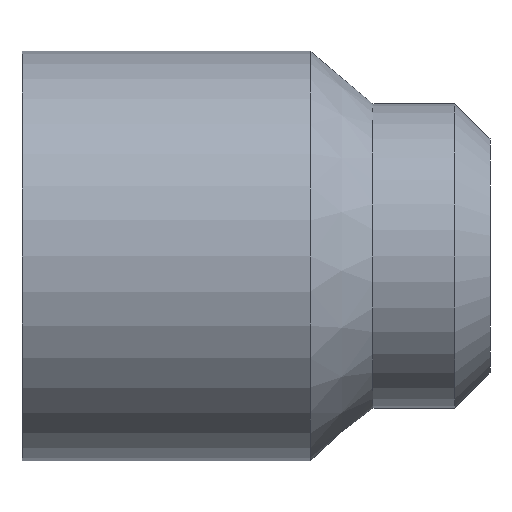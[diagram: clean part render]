
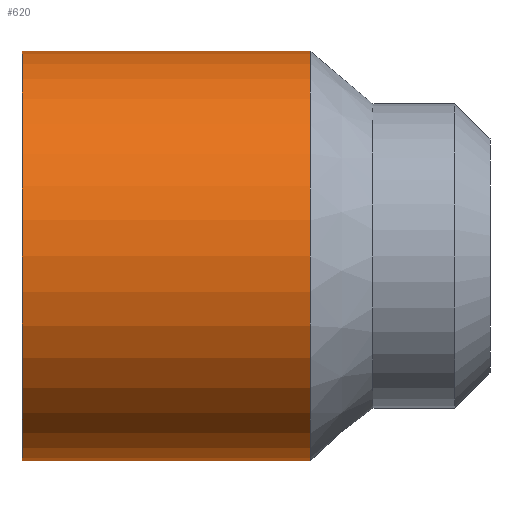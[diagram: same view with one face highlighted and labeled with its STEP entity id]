
A CAD part, front view. The second image highlights one B-rep face of the part: STEP entity #620.
In plain terms, the highlighted cylindrical face has radius 17.5 mm (diameter 35 mm), a partial arc.
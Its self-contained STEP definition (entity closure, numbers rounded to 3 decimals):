
#32=CARTESIAN_POINT('',(53.5,0.,64.02));
#33=VERTEX_POINT('',#32);
#42=CARTESIAN_POINT('',(53.5,-0.,29.02));
#43=VERTEX_POINT('',#42);
#51=CARTESIAN_POINT('',(53.5,0.,46.52));
#52=DIRECTION('',(1.,0.,0.));
#53=DIRECTION('',(0.,0.,-1.));
#54=AXIS2_PLACEMENT_3D('',#51,#52,#53);
#55=CIRCLE('',#54,17.5);
#56=EDGE_CURVE('',#33,#43,#55,.T.);
#443=CARTESIAN_POINT('',(78.137,0.,64.02));
#444=VERTEX_POINT('',#443);
#460=CARTESIAN_POINT('',(78.137,-0.,29.02));
#461=VERTEX_POINT('',#460);
#462=CARTESIAN_POINT('',(78.137,0.,46.52));
#463=DIRECTION('',(1.,0.,0.));
#464=DIRECTION('',(0.,0.,-1.));
#465=AXIS2_PLACEMENT_3D('',#462,#463,#464);
#466=CIRCLE('',#465,17.5);
#467=EDGE_CURVE('',#444,#461,#466,.T.);
#484=CARTESIAN_POINT('',(78.137,0.,29.02));
#485=DIRECTION('',(-1.,-0.,0.));
#486=VECTOR('',#485,24.637);
#487=LINE('',#484,#486);
#488=EDGE_CURVE('',#461,#43,#487,.T.);
#491=CARTESIAN_POINT('',(78.137,0.,64.02));
#492=DIRECTION('',(-1.,0.,0.));
#493=VECTOR('',#492,24.637);
#494=LINE('',#491,#493);
#495=EDGE_CURVE('',#444,#33,#494,.T.);
#609=CARTESIAN_POINT('',(93.5,0.,46.52));
#610=DIRECTION('',(1.,0.,0.));
#611=DIRECTION('',(0.,0.,-1.));
#612=AXIS2_PLACEMENT_3D('',#609,#610,#611);
#613=CYLINDRICAL_SURFACE('',#612,17.5);
#614=ORIENTED_EDGE('',*,*,#488,.F.);
#615=ORIENTED_EDGE('',*,*,#467,.F.);
#616=ORIENTED_EDGE('',*,*,#495,.T.);
#617=ORIENTED_EDGE('',*,*,#56,.T.);
#618=EDGE_LOOP('',(#614,#615,#616,#617));
#619=FACE_BOUND('',#618,.T.);
#620=ADVANCED_FACE('',(#619),#613,.T.);
